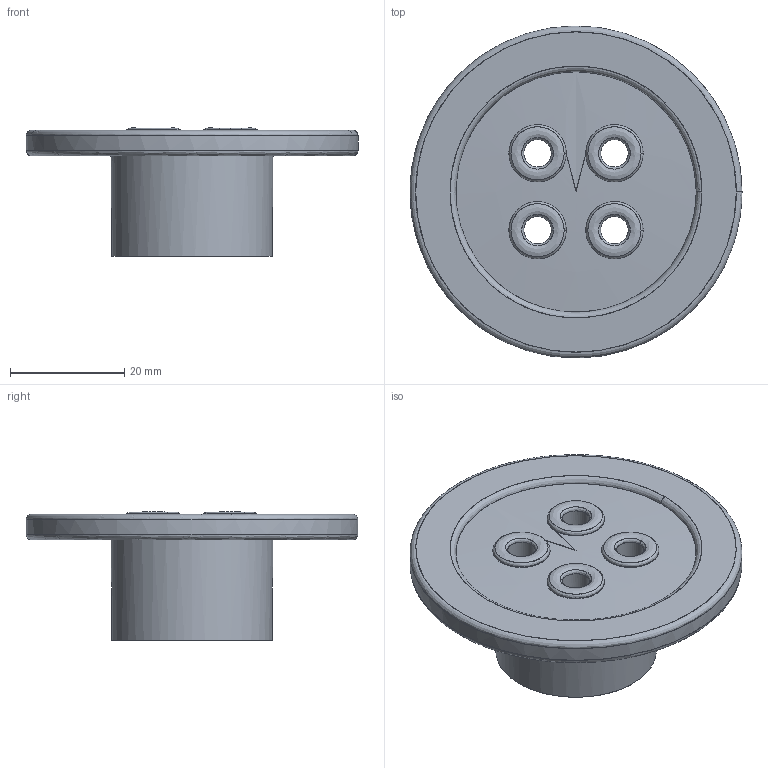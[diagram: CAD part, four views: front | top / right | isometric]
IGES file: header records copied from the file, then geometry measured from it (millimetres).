
Start section: C
Global section: file name: 8257.igs; native system: By Siemens PLM Incorporated; preprocessor: XPlus GENERIC/IGES 16.0.42; author: Author; organization: Title; date: 20231113.100341; units: millimetre
Bounding box: 58 x 57.99 x 22.39 mm (x, y, z)
Surface area: 11097 mm2 (no closed solid volume)
Topology: 0 solids, 0 shells, 74 faces, 473 edges, 472 vertices
Faces by surface type: bspline 74
